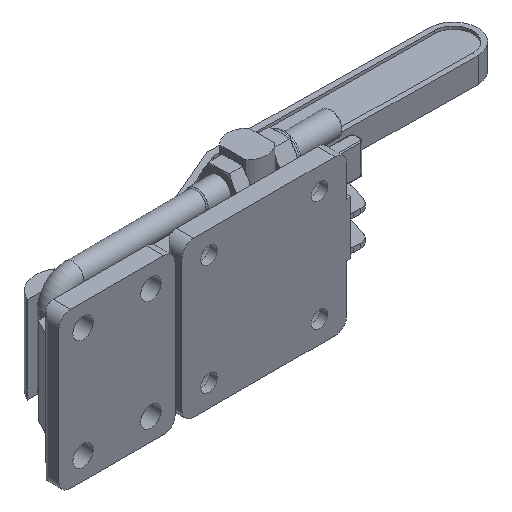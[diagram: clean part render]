
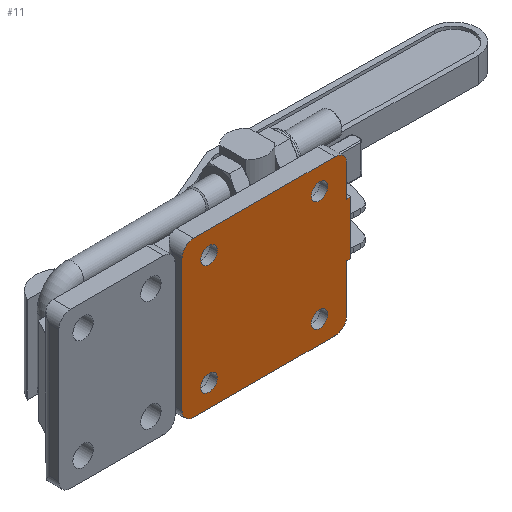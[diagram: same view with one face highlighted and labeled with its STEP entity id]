
A CAD part, isometric view. The second image highlights one B-rep face of the part: STEP entity #11.
In plain terms, the highlighted planar face has unit normal (0, -1, 0).
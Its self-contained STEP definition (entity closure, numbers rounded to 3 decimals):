
#11 = ADVANCED_FACE ( 'NONE', ( #11489, #5656, #8470, #9617, #630 ), #9555, .F. ) ;
#77 = EDGE_CURVE ( 'NONE', #3617, #5939, #2923, .T. ) ;
#356 = VERTEX_POINT ( 'NONE', #8135 ) ;
#370 = CARTESIAN_POINT ( 'NONE',  ( 85., 0., -9.256 ) ) ;
#513 = DIRECTION ( 'NONE',  ( 0., -1., 0. ) ) ;
#586 = EDGE_CURVE ( 'NONE', #9059, #3122, #9455, .T. ) ;
#630 = FACE_BOUND ( 'NONE', #10135, .T. ) ;
#683 = DIRECTION ( 'NONE',  ( 0., 0., 1. ) ) ;
#870 = CARTESIAN_POINT ( 'NONE',  ( 14., 0., -28.5 ) ) ;
#908 = ORIENTED_EDGE ( 'NONE', *, *, #77, .F. ) ;
#996 = CIRCLE ( 'NONE', #8186, 4.25 ) ;
#1034 = EDGE_CURVE ( 'NONE', #11545, #10685, #11737, .T. ) ;
#1073 = EDGE_CURVE ( 'NONE', #12656, #6911, #2028, .T. ) ;
#1075 = DIRECTION ( 'NONE',  ( -1., 0., 0. ) ) ;
#1208 = CARTESIAN_POINT ( 'NONE',  ( 85., 0., 40. ) ) ;
#1277 = EDGE_LOOP ( 'NONE', ( #6047, #2560, #908, #4199, #5781, #8797, #9183, #5521, #3235, #4288, #6036, #2955 ) ) ;
#1380 = DIRECTION ( 'NONE',  ( 0., 1., 0. ) ) ;
#1466 = ORIENTED_EDGE ( 'NONE', *, *, #3369, .F. ) ;
#1532 = DIRECTION ( 'NONE',  ( 0., 0., 1. ) ) ;
#1644 = CARTESIAN_POINT ( 'NONE',  ( 0., 0., 40. ) ) ;
#1712 = VECTOR ( 'NONE', #2405, 1000. ) ;
#1778 = VERTEX_POINT ( 'NONE', #10678 ) ;
#1854 = CARTESIAN_POINT ( 'NONE',  ( 14., 0., 28.5 ) ) ;
#2028 = LINE ( 'NONE', #5077, #8435 ) ;
#2115 = EDGE_CURVE ( 'NONE', #6911, #11545, #7112, .T. ) ;
#2159 = CARTESIAN_POINT ( 'NONE',  ( 87., 0., 18.243 ) ) ;
#2191 = EDGE_CURVE ( 'NONE', #12627, #9946, #7250, .T. ) ;
#2305 = AXIS2_PLACEMENT_3D ( 'NONE', #10381, #5586, #683 ) ;
#2340 = AXIS2_PLACEMENT_3D ( 'NONE', #2956, #9884, #5931 ) ;
#2405 = DIRECTION ( 'NONE',  ( 0., 0., -1. ) ) ;
#2558 = CARTESIAN_POINT ( 'NONE',  ( 71., 0., -28.5 ) ) ;
#2560 = ORIENTED_EDGE ( 'NONE', *, *, #3153, .F. ) ;
#2858 = DIRECTION ( 'NONE',  ( 0., -1., 0. ) ) ;
#2878 = DIRECTION ( 'NONE',  ( 0., 0., 1. ) ) ;
#2923 = CIRCLE ( 'NONE', #3950, 6. ) ;
#2955 = ORIENTED_EDGE ( 'NONE', *, *, #5498, .F. ) ;
#2956 = CARTESIAN_POINT ( 'NONE',  ( 71., 0., 28.5 ) ) ;
#2982 = EDGE_LOOP ( 'NONE', ( #8629 ) ) ;
#3031 = VERTEX_POINT ( 'NONE', #7075 ) ;
#3122 = VERTEX_POINT ( 'NONE', #2159 ) ;
#3153 = EDGE_CURVE ( 'NONE', #5939, #9059, #9174, .T. ) ;
#3235 = ORIENTED_EDGE ( 'NONE', *, *, #7843, .F. ) ;
#3327 = CARTESIAN_POINT ( 'NONE',  ( 79., 0., -40. ) ) ;
#3350 = CARTESIAN_POINT ( 'NONE',  ( 85., 0., 34. ) ) ;
#3369 = EDGE_CURVE ( 'NONE', #4867, #4867, #9341, .T. ) ;
#3617 = VERTEX_POINT ( 'NONE', #4404 ) ;
#3803 = AXIS2_PLACEMENT_3D ( 'NONE', #870, #2858, #5773 ) ;
#3950 = AXIS2_PLACEMENT_3D ( 'NONE', #8070, #11940, #9737 ) ;
#4199 = ORIENTED_EDGE ( 'NONE', *, *, #5031, .F. ) ;
#4288 = ORIENTED_EDGE ( 'NONE', *, *, #2191, .F. ) ;
#4355 = CARTESIAN_POINT ( 'NONE',  ( 85., 0., 40. ) ) ;
#4404 = CARTESIAN_POINT ( 'NONE',  ( 79., 0., 40. ) ) ;
#4420 = EDGE_CURVE ( 'NONE', #3031, #12627, #5092, .T. ) ;
#4814 = CARTESIAN_POINT ( 'NONE',  ( 6., 0., -34. ) ) ;
#4867 = VERTEX_POINT ( 'NONE', #8771 ) ;
#5031 = EDGE_CURVE ( 'NONE', #1778, #3617, #9979, .T. ) ;
#5041 = CIRCLE ( 'NONE', #2340, 4.25 ) ;
#5077 = CARTESIAN_POINT ( 'NONE',  ( 0., 0., -40. ) ) ;
#5092 = CIRCLE ( 'NONE', #8964, 4.096 ) ;
#5104 = EDGE_CURVE ( 'NONE', #9993, #9993, #996, .T. ) ;
#5129 = EDGE_LOOP ( 'NONE', ( #12391 ) ) ;
#5187 = EDGE_LOOP ( 'NONE', ( #12014 ) ) ;
#5378 = CARTESIAN_POINT ( 'NONE',  ( 71., 0., 32.75 ) ) ;
#5498 = EDGE_CURVE ( 'NONE', #3122, #3031, #11557, .T. ) ;
#5521 = ORIENTED_EDGE ( 'NONE', *, *, #1073, .F. ) ;
#5586 = DIRECTION ( 'NONE',  ( 0., 1., 0. ) ) ;
#5656 = FACE_BOUND ( 'NONE', #5129, .T. ) ;
#5773 = DIRECTION ( 'NONE',  ( 0., 0., 1. ) ) ;
#5781 = ORIENTED_EDGE ( 'NONE', *, *, #10630, .F. ) ;
#5797 = CARTESIAN_POINT ( 'NONE',  ( 85., 0., 17.774 ) ) ;
#5931 = DIRECTION ( 'NONE',  ( 0., 0., 1. ) ) ;
#5939 = VERTEX_POINT ( 'NONE', #3350 ) ;
#5969 = CARTESIAN_POINT ( 'NONE',  ( 14., 0., 32.75 ) ) ;
#5978 = CARTESIAN_POINT ( 'NONE',  ( 0., 0., -34. ) ) ;
#6036 = ORIENTED_EDGE ( 'NONE', *, *, #4420, .F. ) ;
#6047 = ORIENTED_EDGE ( 'NONE', *, *, #586, .F. ) ;
#6643 = CIRCLE ( 'NONE', #2305, 6. ) ;
#6911 = VERTEX_POINT ( 'NONE', #9786 ) ;
#7075 = CARTESIAN_POINT ( 'NONE',  ( 87., 0., -9.725 ) ) ;
#7112 = CIRCLE ( 'NONE', #11597, 6. ) ;
#7250 = LINE ( 'NONE', #4355, #1712 ) ;
#7598 = DIRECTION ( 'NONE',  ( 0., 0., 1. ) ) ;
#7759 = DIRECTION ( 'NONE',  ( 0., 0., -1. ) ) ;
#7786 = VECTOR ( 'NONE', #7759, 1000. ) ;
#7838 = DIRECTION ( 'NONE',  ( 0., 1., 0. ) ) ;
#7843 = EDGE_CURVE ( 'NONE', #9946, #12656, #6643, .T. ) ;
#8070 = CARTESIAN_POINT ( 'NONE',  ( 79., 0., 34. ) ) ;
#8073 = CARTESIAN_POINT ( 'NONE',  ( 0., 0., 40. ) ) ;
#8135 = CARTESIAN_POINT ( 'NONE',  ( 71., 0., -24.25 ) ) ;
#8186 = AXIS2_PLACEMENT_3D ( 'NONE', #1854, #8806, #10731 ) ;
#8204 = DIRECTION ( 'NONE',  ( 0., 0., 1. ) ) ;
#8337 = DIRECTION ( 'NONE',  ( 0., 0., -1. ) ) ;
#8435 = VECTOR ( 'NONE', #1075, 1000. ) ;
#8470 = FACE_BOUND ( 'NONE', #2982, .T. ) ;
#8543 = CARTESIAN_POINT ( 'NONE',  ( 87., 0., 40. ) ) ;
#8629 = ORIENTED_EDGE ( 'NONE', *, *, #5104, .F. ) ;
#8727 = DIRECTION ( 'NONE',  ( 0., 1., 0. ) ) ;
#8771 = CARTESIAN_POINT ( 'NONE',  ( 14., 0., -24.25 ) ) ;
#8797 = ORIENTED_EDGE ( 'NONE', *, *, #1034, .F. ) ;
#8806 = DIRECTION ( 'NONE',  ( 0., -1., 0. ) ) ;
#8963 = EDGE_CURVE ( 'NONE', #356, #356, #9727, .T. ) ;
#8964 = AXIS2_PLACEMENT_3D ( 'NONE', #9422, #12529, #11549 ) ;
#9059 = VERTEX_POINT ( 'NONE', #5797 ) ;
#9174 = LINE ( 'NONE', #1208, #12539 ) ;
#9183 = ORIENTED_EDGE ( 'NONE', *, *, #2115, .F. ) ;
#9341 = CIRCLE ( 'NONE', #3803, 4.25 ) ;
#9396 = VECTOR ( 'NONE', #10042, 1000. ) ;
#9422 = CARTESIAN_POINT ( 'NONE',  ( 86.904, 0., -5.63 ) ) ;
#9455 = CIRCLE ( 'NONE', #12138, 4.096 ) ;
#9488 = DIRECTION ( 'NONE',  ( 0., 1., 0. ) ) ;
#9555 = PLANE ( 'NONE',  #12168 ) ;
#9617 = FACE_BOUND ( 'NONE', #5187, .T. ) ;
#9694 = CARTESIAN_POINT ( 'NONE',  ( 86.904, 0., 14.148 ) ) ;
#9727 = CIRCLE ( 'NONE', #11373, 4.25 ) ;
#9737 = DIRECTION ( 'NONE',  ( 0., 0., 1. ) ) ;
#9786 = CARTESIAN_POINT ( 'NONE',  ( 6., 0., -40. ) ) ;
#9884 = DIRECTION ( 'NONE',  ( 0., -1., 0. ) ) ;
#9946 = VERTEX_POINT ( 'NONE', #11443 ) ;
#9979 = LINE ( 'NONE', #11134, #9396 ) ;
#9993 = VERTEX_POINT ( 'NONE', #5969 ) ;
#10021 = EDGE_CURVE ( 'NONE', #10241, #10241, #5041, .T. ) ;
#10042 = DIRECTION ( 'NONE',  ( 1., 0., 0. ) ) ;
#10050 = VECTOR ( 'NONE', #10835, 1000. ) ;
#10135 = EDGE_LOOP ( 'NONE', ( #1466 ) ) ;
#10241 = VERTEX_POINT ( 'NONE', #5378 ) ;
#10303 = CARTESIAN_POINT ( 'NONE',  ( 0., 0., 34. ) ) ;
#10381 = CARTESIAN_POINT ( 'NONE',  ( 79., 0., -34. ) ) ;
#10577 = DIRECTION ( 'NONE',  ( 0., 0., 1. ) ) ;
#10630 = EDGE_CURVE ( 'NONE', #10685, #1778, #10985, .T. ) ;
#10678 = CARTESIAN_POINT ( 'NONE',  ( 6., 0., 40. ) ) ;
#10685 = VERTEX_POINT ( 'NONE', #10303 ) ;
#10731 = DIRECTION ( 'NONE',  ( 0., 0., 1. ) ) ;
#10835 = DIRECTION ( 'NONE',  ( 0., 0., 1. ) ) ;
#10985 = CIRCLE ( 'NONE', #11391, 6. ) ;
#11134 = CARTESIAN_POINT ( 'NONE',  ( 0., 0., 40. ) ) ;
#11373 = AXIS2_PLACEMENT_3D ( 'NONE', #2558, #513, #1532 ) ;
#11391 = AXIS2_PLACEMENT_3D ( 'NONE', #12187, #1380, #8204 ) ;
#11443 = CARTESIAN_POINT ( 'NONE',  ( 85., 0., -34. ) ) ;
#11489 = FACE_OUTER_BOUND ( 'NONE', #1277, .T. ) ;
#11545 = VERTEX_POINT ( 'NONE', #5978 ) ;
#11549 = DIRECTION ( 'NONE',  ( 0., 0., 1. ) ) ;
#11557 = LINE ( 'NONE', #8543, #7786 ) ;
#11597 = AXIS2_PLACEMENT_3D ( 'NONE', #4814, #8727, #2878 ) ;
#11737 = LINE ( 'NONE', #8073, #10050 ) ;
#11940 = DIRECTION ( 'NONE',  ( 0., 1., 0. ) ) ;
#12014 = ORIENTED_EDGE ( 'NONE', *, *, #8963, .F. ) ;
#12138 = AXIS2_PLACEMENT_3D ( 'NONE', #9694, #7838, #7598 ) ;
#12168 = AXIS2_PLACEMENT_3D ( 'NONE', #1644, #9488, #10577 ) ;
#12187 = CARTESIAN_POINT ( 'NONE',  ( 6., 0., 34. ) ) ;
#12391 = ORIENTED_EDGE ( 'NONE', *, *, #10021, .F. ) ;
#12529 = DIRECTION ( 'NONE',  ( 0., 1., 0. ) ) ;
#12539 = VECTOR ( 'NONE', #8337, 1000. ) ;
#12627 = VERTEX_POINT ( 'NONE', #370 ) ;
#12656 = VERTEX_POINT ( 'NONE', #3327 ) ;
